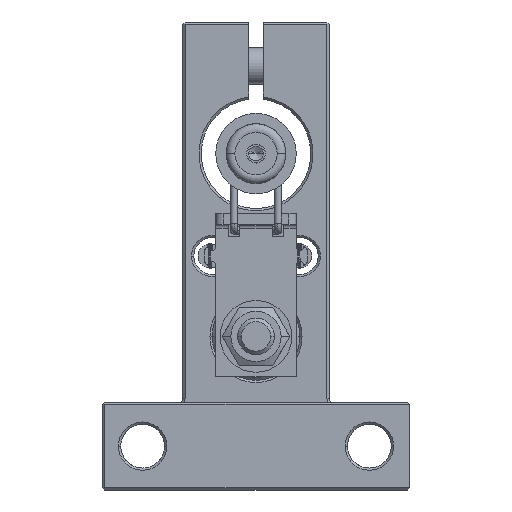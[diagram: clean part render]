
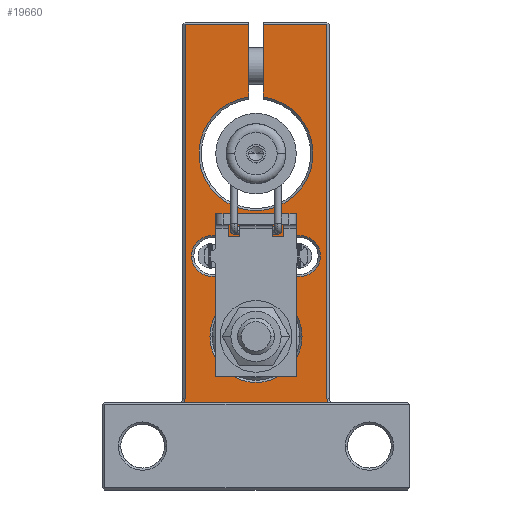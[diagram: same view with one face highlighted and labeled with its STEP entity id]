
A CAD part, front view. The second image highlights one B-rep face of the part: STEP entity #19660.
In plain terms, the highlighted planar face has unit normal (0, -1, 0).
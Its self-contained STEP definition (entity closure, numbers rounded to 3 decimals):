
#11310=CARTESIAN_POINT('',(1.,-14.,17.7));
#11320=VERTEX_POINT('',#11310);
#11370=CARTESIAN_POINT('',(1.,-14.,7.736));
#11380=DIRECTION('',(0.,0.,1.));
#11390=VECTOR('',#11380,1.);
#11400=LINE('',#11370,#11390);
#11410=CARTESIAN_POINT('',(1.,-14.,7.736));
#11420=VERTEX_POINT('',#11410);
#11430=EDGE_CURVE('',#11420,#11320,#11400,.T.);
#14360=CARTESIAN_POINT('',(-9.876,-14.,-34.));
#14370=VERTEX_POINT('',#14360);
#14400=CARTESIAN_POINT('',(-9.876,-14.,-34.));
#14410=DIRECTION('',(1.,0.,0.));
#14420=VECTOR('',#14410,1.);
#14430=LINE('',#14400,#14420);
#14440=CARTESIAN_POINT('',(9.876,-14.,-34.));
#14450=VERTEX_POINT('',#14440);
#14460=EDGE_CURVE('',#14370,#14450,#14430,.T.);
#18090=CARTESIAN_POINT('',(-9.7,-14.,-33.5));
#18100=VERTEX_POINT('',#18090);
#18130=CARTESIAN_POINT('',(-10.5,-14.,-33.5));
#18140=DIRECTION('',(0.,1.,0.));
#18150=DIRECTION('',(1.,0.,0.));
#18160=AXIS2_PLACEMENT_3D('',#18130,#18140,#18150);
#18170=CIRCLE('',#18160,0.8);
#18180=EDGE_CURVE('',#18100,#14370,#18170,.T.);
#18510=CARTESIAN_POINT('',(-9.7,-14.,17.7));
#18520=VERTEX_POINT('',#18510);
#18550=CARTESIAN_POINT('',(-9.7,-14.,-33.5));
#18560=DIRECTION('',(0.,0.,1.));
#18570=VECTOR('',#18560,1.);
#18580=LINE('',#18550,#18570);
#18590=EDGE_CURVE('',#18100,#18520,#18580,.T.);
#18640=CARTESIAN_POINT('',(0.,-14.,-8.));
#18650=DIRECTION('',(0.,-1.,0.));
#18660=DIRECTION('',(1.,0.,0.));
#18670=AXIS2_PLACEMENT_3D('',#18640,#18650,#18660);
#18680=PLANE('',#18670);
#18690=CARTESIAN_POINT('',(9.7,-14.,17.7));
#18700=DIRECTION('',(0.,0.,-1.));
#18710=VECTOR('',#18700,1.);
#18720=LINE('',#18690,#18710);
#18730=CARTESIAN_POINT('',(9.7,-14.,17.7));
#18740=VERTEX_POINT('',#18730);
#18750=CARTESIAN_POINT('',(9.7,-14.,-33.5));
#18760=VERTEX_POINT('',#18750);
#18770=EDGE_CURVE('',#18740,#18760,#18720,.T.);
#18780=ORIENTED_EDGE('',*,*,#18770,.F.);
#18790=CARTESIAN_POINT('',(10.5,-14.,-33.5));
#18800=DIRECTION('',(0.,1.,0.));
#18810=DIRECTION('',(-0.781,0.,-0.625));
#18820=AXIS2_PLACEMENT_3D('',#18790,#18800,#18810);
#18830=CIRCLE('',#18820,0.8);
#18840=EDGE_CURVE('',#14450,#18760,#18830,.T.);
#18850=ORIENTED_EDGE('',*,*,#18840,.T.);
#18860=ORIENTED_EDGE('',*,*,#14460,.T.);
#18870=ORIENTED_EDGE('',*,*,#18180,.T.);
#18880=ORIENTED_EDGE('',*,*,#18590,.F.);
#18890=CARTESIAN_POINT('',(-9.7,-14.,17.7));
#18900=DIRECTION('',(1.,0.,0.));
#18910=VECTOR('',#18900,1.);
#18920=LINE('',#18890,#18910);
#18930=CARTESIAN_POINT('',(-1.,-14.,17.7));
#18940=VERTEX_POINT('',#18930);
#18950=EDGE_CURVE('',#18520,#18940,#18920,.T.);
#18960=ORIENTED_EDGE('',*,*,#18950,.F.);
#18970=CARTESIAN_POINT('',(-1.,-14.,17.7));
#18980=DIRECTION('',(0.,0.,-1.));
#18990=VECTOR('',#18980,1.);
#19000=LINE('',#18970,#18990);
#19010=CARTESIAN_POINT('',(-1.,-14.,7.736));
#19020=VERTEX_POINT('',#19010);
#19030=EDGE_CURVE('',#18940,#19020,#19000,.T.);
#19040=ORIENTED_EDGE('',*,*,#19030,.F.);
#19050=CARTESIAN_POINT('',(0.,-14.,0.));
#19060=DIRECTION('',(0.,-1.,0.));
#19070=DIRECTION('',(-0.128,0.,0.992));
#19080=AXIS2_PLACEMENT_3D('',#19050,#19060,#19070);
#19090=CIRCLE('',#19080,7.8);
#19100=EDGE_CURVE('',#19020,#11420,#19090,.T.);
#19110=ORIENTED_EDGE('',*,*,#19100,.F.);
#19120=ORIENTED_EDGE('',*,*,#11430,.F.);
#19130=CARTESIAN_POINT('',(1.,-14.,17.7));
#19140=DIRECTION('',(1.,0.,0.));
#19150=VECTOR('',#19140,1.);
#19160=LINE('',#19130,#19150);
#19170=EDGE_CURVE('',#11320,#18740,#19160,.T.);
#19180=ORIENTED_EDGE('',*,*,#19170,.F.);
#19190=EDGE_LOOP('',(#19180,#19120,#19110,#19040,#18960,#18880,#18870,
#18860,#18850,#18780));
#19200=FACE_OUTER_BOUND('',#19190,.T.);
#19210=CARTESIAN_POINT('',(0.,-14.,-25.));
#19220=DIRECTION('',(0.,1.,0.));
#19230=DIRECTION('',(1.,0.,0.));
#19240=AXIS2_PLACEMENT_3D('',#19210,#19220,#19230);
#19250=CIRCLE('',#19240,6.3);
#19260=CARTESIAN_POINT('',(6.3,-14.,-25.));
#19270=VERTEX_POINT('',#19260);
#19280=CARTESIAN_POINT('',(-6.3,-14.,-25.));
#19290=VERTEX_POINT('',#19280);
#19300=EDGE_CURVE('',#19270,#19290,#19250,.T.);
#19310=ORIENTED_EDGE('',*,*,#19300,.T.);
#19320=EDGE_CURVE('',#19290,#19270,#19250,.T.);
#19330=ORIENTED_EDGE('',*,*,#19320,.T.);
#19340=EDGE_LOOP('',(#19330,#19310));
#19350=FACE_BOUND('',#19340,.T.);
#19360=CARTESIAN_POINT('',(-6.,-14.,-14.));
#19370=DIRECTION('',(0.,1.,0.));
#19380=DIRECTION('',(1.,0.,0.));
#19390=AXIS2_PLACEMENT_3D('',#19360,#19370,#19380);
#19400=CIRCLE('',#19390,2.8);
#19410=CARTESIAN_POINT('',(-8.8,-14.,-14.));
#19420=VERTEX_POINT('',#19410);
#19430=CARTESIAN_POINT('',(-3.2,-14.,-14.));
#19440=VERTEX_POINT('',#19430);
#19450=EDGE_CURVE('',#19420,#19440,#19400,.T.);
#19460=ORIENTED_EDGE('',*,*,#19450,.T.);
#19470=EDGE_CURVE('',#19440,#19420,#19400,.T.);
#19480=ORIENTED_EDGE('',*,*,#19470,.T.);
#19490=EDGE_LOOP('',(#19480,#19460));
#19500=FACE_BOUND('',#19490,.T.);
#19510=CARTESIAN_POINT('',(6.,-14.,-14.));
#19520=DIRECTION('',(0.,1.,0.));
#19530=DIRECTION('',(1.,0.,0.));
#19540=AXIS2_PLACEMENT_3D('',#19510,#19520,#19530);
#19550=CIRCLE('',#19540,2.8);
#19560=CARTESIAN_POINT('',(3.2,-14.,-14.));
#19570=VERTEX_POINT('',#19560);
#19580=CARTESIAN_POINT('',(8.8,-14.,-14.));
#19590=VERTEX_POINT('',#19580);
#19600=EDGE_CURVE('',#19570,#19590,#19550,.T.);
#19610=ORIENTED_EDGE('',*,*,#19600,.T.);
#19620=EDGE_CURVE('',#19590,#19570,#19550,.T.);
#19630=ORIENTED_EDGE('',*,*,#19620,.T.);
#19640=EDGE_LOOP('',(#19630,#19610));
#19650=FACE_BOUND('',#19640,.T.);
#19660=ADVANCED_FACE('',(#19200,#19350,#19500,#19650),#18680,.T.);
